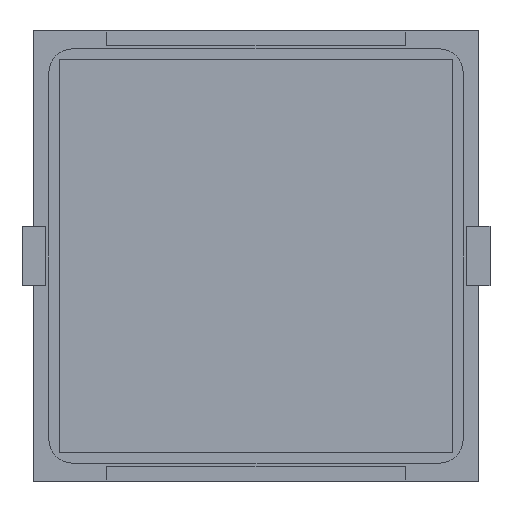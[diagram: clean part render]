
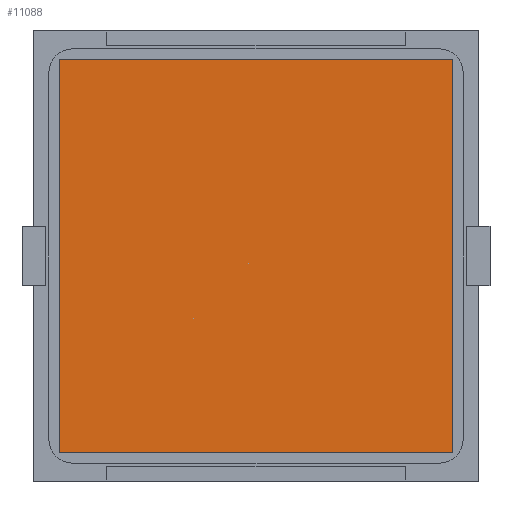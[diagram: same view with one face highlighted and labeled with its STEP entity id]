
A CAD part, front view. The second image highlights one B-rep face of the part: STEP entity #11088.
In plain terms, the highlighted planar face has unit normal (0, -1, 0).
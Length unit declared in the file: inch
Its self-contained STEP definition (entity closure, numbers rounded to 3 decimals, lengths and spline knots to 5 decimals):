
#112 = EDGE_CURVE ( 'NONE', #12171, #3548, #2664, .T. ) ;
#216 = LINE ( 'NONE', #1441, #8967 ) ;
#338 = CARTESIAN_POINT ( 'NONE',  ( 0.64961, -0.005, 0.64961 ) ) ;
#364 = CARTESIAN_POINT ( 'NONE',  ( 0.64961, -0.005, 0.64961 ) ) ;
#1202 = ORIENTED_EDGE ( 'NONE', *, *, #3424, .T. ) ;
#1441 = CARTESIAN_POINT ( 'NONE',  ( 0.64961, -0.005, -0.64961 ) ) ;
#1596 = EDGE_CURVE ( 'NONE', #2448, #10813, #10620, .T. ) ;
#1635 = PLANE ( 'NONE',  #4472 ) ;
#1970 = VECTOR ( 'NONE', #2906, 39.37008 ) ;
#2448 = VERTEX_POINT ( 'NONE', #364 ) ;
#2570 = DIRECTION ( 'NONE',  ( 0., 0., 1. ) ) ;
#2664 = LINE ( 'NONE', #14006, #1970 ) ;
#2901 = EDGE_CURVE ( 'NONE', #10813, #12171, #9461, .T. ) ;
#2906 = DIRECTION ( 'NONE',  ( 1., 0., 0. ) ) ;
#3188 = ORIENTED_EDGE ( 'NONE', *, *, #112, .T. ) ;
#3424 = EDGE_CURVE ( 'NONE', #3548, #2448, #216, .T. ) ;
#3548 = VERTEX_POINT ( 'NONE', #15420 ) ;
#4360 = EDGE_LOOP ( 'NONE', ( #1202, #4413, #8434, #3188 ) ) ;
#4413 = ORIENTED_EDGE ( 'NONE', *, *, #1596, .T. ) ;
#4472 = AXIS2_PLACEMENT_3D ( 'NONE', #338, #9396, #6602 ) ;
#4798 = VECTOR ( 'NONE', #13165, 39.37008 ) ;
#6602 = DIRECTION ( 'NONE',  ( 0., 0., 1. ) ) ;
#8082 = CARTESIAN_POINT ( 'NONE',  ( 0.64961, -0.005, 0.64961 ) ) ;
#8434 = ORIENTED_EDGE ( 'NONE', *, *, #2901, .T. ) ;
#8967 = VECTOR ( 'NONE', #2570, 39.37008 ) ;
#9396 = DIRECTION ( 'NONE',  ( 0., -1., 0. ) ) ;
#9461 = LINE ( 'NONE', #14506, #4798 ) ;
#9625 = VECTOR ( 'NONE', #13106, 39.37008 ) ;
#10067 = CARTESIAN_POINT ( 'NONE',  ( -0.64961, -0.005, 0.64961 ) ) ;
#10620 = LINE ( 'NONE', #8082, #9625 ) ;
#10736 = CARTESIAN_POINT ( 'NONE',  ( -0.64961, -0.005, -0.64961 ) ) ;
#10813 = VERTEX_POINT ( 'NONE', #10067 ) ;
#11088 = ADVANCED_FACE ( 'NONE', ( #15645 ), #1635, .T. ) ;
#12171 = VERTEX_POINT ( 'NONE', #10736 ) ;
#13106 = DIRECTION ( 'NONE',  ( -1., 0., 0. ) ) ;
#13165 = DIRECTION ( 'NONE',  ( 0., 0., -1. ) ) ;
#14006 = CARTESIAN_POINT ( 'NONE',  ( 0.64961, -0.005, -0.64961 ) ) ;
#14506 = CARTESIAN_POINT ( 'NONE',  ( -0.64961, -0.005, -0.64961 ) ) ;
#15420 = CARTESIAN_POINT ( 'NONE',  ( 0.64961, -0.005, -0.64961 ) ) ;
#15645 = FACE_OUTER_BOUND ( 'NONE', #4360, .T. ) ;
